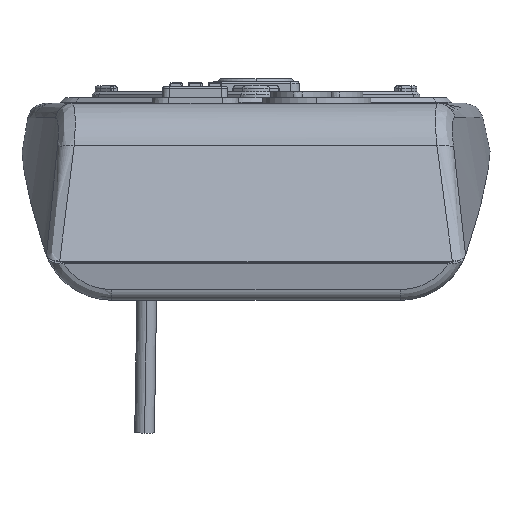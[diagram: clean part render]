
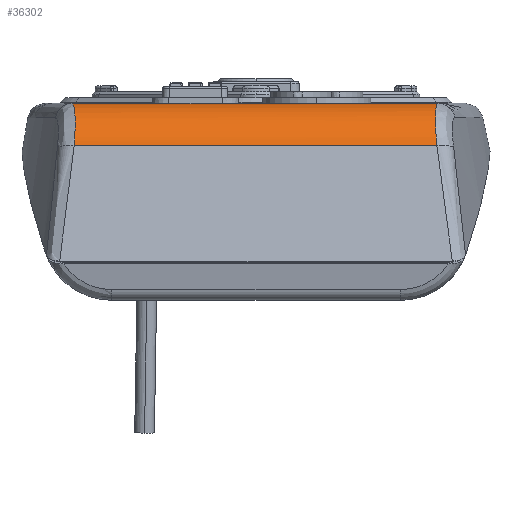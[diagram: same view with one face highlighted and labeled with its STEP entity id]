
A CAD part, left-side view. The second image highlights one B-rep face of the part: STEP entity #36302.
In plain terms, the highlighted cylindrical face has radius 10 mm (diameter 20 mm), a partial arc.
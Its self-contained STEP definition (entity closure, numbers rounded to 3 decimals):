
#1653 = CARTESIAN_POINT ( 'NONE',  ( -29.21, 56.182, 8.646 ) ) ;
#1746 = CARTESIAN_POINT ( 'NONE',  ( -23.848, 67.872, 10.756 ) ) ;
#1952 = ORIENTED_EDGE ( 'NONE', *, *, #54264, .T. ) ;
#2401 = CARTESIAN_POINT ( 'NONE',  ( -32.666, -6.42, 3.419 ) ) ;
#2450 = CARTESIAN_POINT ( 'NONE',  ( -28.59, 56.207, 9.098 ) ) ;
#2802 = CARTESIAN_POINT ( 'NONE',  ( -31.293, -6.222, 6.411 ) ) ;
#3207 = CARTESIAN_POINT ( 'NONE',  ( -30.837, -6.201, 7.029 ) ) ;
#3978 = CYLINDRICAL_SURFACE ( 'NONE', #28907, 10. ) ;
#4549 = CARTESIAN_POINT ( 'NONE',  ( -32.666, 56.338, 3.419 ) ) ;
#5896 = VERTEX_POINT ( 'NONE', #42204 ) ;
#6725 = CARTESIAN_POINT ( 'NONE',  ( -24.352, 56.521, 10.713 ) ) ;
#7257 = CARTESIAN_POINT ( 'NONE',  ( -31.985, -6.271, 5.334 ) ) ;
#7578 = FACE_OUTER_BOUND ( 'NONE', #12845, .T. ) ;
#7867 = CARTESIAN_POINT ( 'NONE',  ( -24.353, -6.474, 10.713 ) ) ;
#8261 = CARTESIAN_POINT ( 'NONE',  ( -29.807, -6.184, 8.15 ) ) ;
#9725 = DIRECTION ( 'NONE',  ( 0., -1., 0. ) ) ;
#11364 = CARTESIAN_POINT ( 'NONE',  ( -26.564, 56.33, 10.144 ) ) ;
#11440 = EDGE_CURVE ( 'NONE', #23365, #5896, #56303, .T. ) ;
#12845 = EDGE_LOOP ( 'NONE', ( #57097, #35299, #36773, #1952 ) ) ;
#15005 = DIRECTION ( 'NONE',  ( -0.083, 0., 0.997 ) ) ;
#15782 = CARTESIAN_POINT ( 'NONE',  ( -31.145, -6.214, 6.622 ) ) ;
#15837 = CARTESIAN_POINT ( 'NONE',  ( -25.835, 56.387, 10.388 ) ) ;
#16428 = CARTESIAN_POINT ( 'NONE',  ( -23.848, 56.573, 10.756 ) ) ;
#17194 = CARTESIAN_POINT ( 'NONE',  ( -27.728, -6.239, 9.626 ) ) ;
#17588 = CARTESIAN_POINT ( 'NONE',  ( -29.013, -6.195, 8.798 ) ) ;
#19813 = DIRECTION ( 'NONE',  ( 0., -1., 0. ) ) ;
#20695 = CARTESIAN_POINT ( 'NONE',  ( -27.271, 56.279, 9.855 ) ) ;
#21108 = CARTESIAN_POINT ( 'NONE',  ( -25.59, 56.408, 10.457 ) ) ;
#21168 = VERTEX_POINT ( 'NONE', #34617 ) ;
#21638 = LINE ( 'NONE', #21914, #23093 ) ;
#21914 = CARTESIAN_POINT ( 'NONE',  ( -32.666, 67.872, 3.419 ) ) ;
#22264 = CARTESIAN_POINT ( 'NONE',  ( -25.841, -6.352, 10.397 ) ) ;
#22617 = VERTEX_POINT ( 'NONE', #4549 ) ;
#23093 = VECTOR ( 'NONE', #45416, 1000. ) ;
#23365 = VERTEX_POINT ( 'NONE', #52105 ) ;
#23920 = CARTESIAN_POINT ( 'NONE',  ( -23.018, 67.872, 0.79 ) ) ;
#24946 = CARTESIAN_POINT ( 'NONE',  ( -31.983, 56.209, 5.339 ) ) ;
#25367 = CARTESIAN_POINT ( 'NONE',  ( -28.377, 56.217, 9.237 ) ) ;
#28907 = AXIS2_PLACEMENT_3D ( 'NONE', #23920, #9725, #15005 ) ;
#30056 = CARTESIAN_POINT ( 'NONE',  ( -29.006, 56.189, 8.803 ) ) ;
#31420 = CARTESIAN_POINT ( 'NONE',  ( -30.676, -6.196, 7.226 ) ) ;
#31632 = CARTESIAN_POINT ( 'NONE',  ( -28.595, -6.206, 9.094 ) ) ;
#34133 = CARTESIAN_POINT ( 'NONE',  ( -32.396, 56.261, 4.409 ) ) ;
#34617 = CARTESIAN_POINT ( 'NONE',  ( -32.666, -6.42, 3.419 ) ) ;
#35299 = ORIENTED_EDGE ( 'NONE', *, *, #53059, .T. ) ;
#36302 = ADVANCED_FACE ( 'NONE', ( #7578 ), #3978, .T. ) ;
#36773 = ORIENTED_EDGE ( 'NONE', *, *, #44837, .T. ) ;
#39194 = CARTESIAN_POINT ( 'NONE',  ( -26.322, 56.348, 10.232 ) ) ;
#40360 = CARTESIAN_POINT ( 'NONE',  ( -26.333, -6.318, 10.238 ) ) ;
#40965 = CARTESIAN_POINT ( 'NONE',  ( -29.218, -6.191, 8.64 ) ) ;
#42204 = CARTESIAN_POINT ( 'NONE',  ( -23.848, -6.522, 10.756 ) ) ;
#43627 = CARTESIAN_POINT ( 'NONE',  ( -30.196, 56.154, 7.827 ) ) ;
#44837 = EDGE_CURVE ( 'NONE', #22617, #21168, #21638, .T. ) ;
#44963 = CARTESIAN_POINT ( 'NONE',  ( -30.171, -6.185, 7.797 ) ) ;
#45416 = DIRECTION ( 'NONE',  ( 0., -1., 0. ) ) ;
#49584 = CARTESIAN_POINT ( 'NONE',  ( -24.853, -6.43, 10.633 ) ) ;
#50006 = CARTESIAN_POINT ( 'NONE',  ( -23.848, -6.522, 10.756 ) ) ;
#51150 = B_SPLINE_CURVE_WITH_KNOTS ( 'NONE', 3,
 ( #16428, #6725, #57623, #21108, #15837, #39194, #11364, #20695, #52705, #25367, #2450, #30056, #1653, #43627, #53503, #24946, #34133, #57421 ),
 .UNSPECIFIED., .F., .F.,
 ( 4, 2, 2, 2, 2, 2, 2, 2, 4 ),
 ( 0.001, 0.002, 0.003, 0.004, 0.005, 0.006, 0.007, 0.01, 0.013 ),
 .UNSPECIFIED. ) ;
#52105 = CARTESIAN_POINT ( 'NONE',  ( -23.848, 56.573, 10.756 ) ) ;
#52705 = CARTESIAN_POINT ( 'NONE',  ( -27.724, 56.251, 9.628 ) ) ;
#53059 = EDGE_CURVE ( 'NONE', #23365, #22617, #51150, .T. ) ;
#53503 = CARTESIAN_POINT ( 'NONE',  ( -30.87, 56.155, 7.068 ) ) ;
#53645 = CARTESIAN_POINT ( 'NONE',  ( -32.397, -6.333, 4.408 ) ) ;
#54264 = EDGE_CURVE ( 'NONE', #21168, #5896, #57445, .T. ) ;
#54676 = CARTESIAN_POINT ( 'NONE',  ( -27.275, -6.261, 9.853 ) ) ;
#55614 = VECTOR ( 'NONE', #19813, 1000. ) ;
#56303 = LINE ( 'NONE', #1746, #55614 ) ;
#57097 = ORIENTED_EDGE ( 'NONE', *, *, #11440, .F. ) ;
#57421 = CARTESIAN_POINT ( 'NONE',  ( -32.666, 56.338, 3.419 ) ) ;
#57445 = B_SPLINE_CURVE_WITH_KNOTS ( 'NONE', 3,
 ( #2401, #53645, #7257, #2802, #15782, #3207, #31420, #44963, #8261, #40965, #17588, #31632, #58578, #17194, #54676, #40360, #22264, #49584, #7867, #50006 ),
 .UNSPECIFIED., .F., .F.,
 ( 4, 2, 2, 2, 2, 2, 2, 2, 2, 4 ),
 ( 0., 0.003, 0.004, 0.005, 0.006, 0.007, 0.008, 0.009, 0.011, 0.012 ),
 .UNSPECIFIED. ) ;
#57623 = CARTESIAN_POINT ( 'NONE',  ( -24.851, 56.473, 10.634 ) ) ;
#58578 = CARTESIAN_POINT ( 'NONE',  ( -28.382, -6.213, 9.233 ) ) ;
